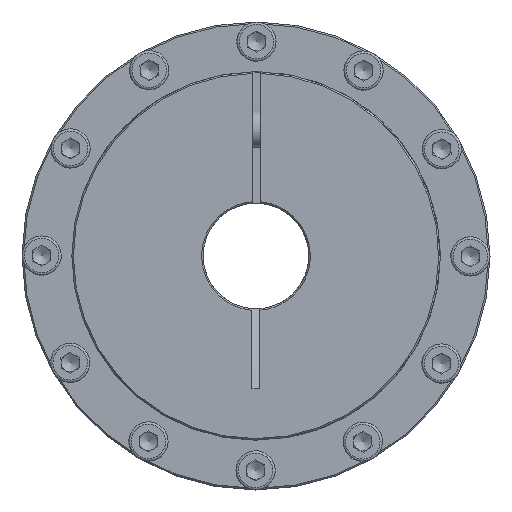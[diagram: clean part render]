
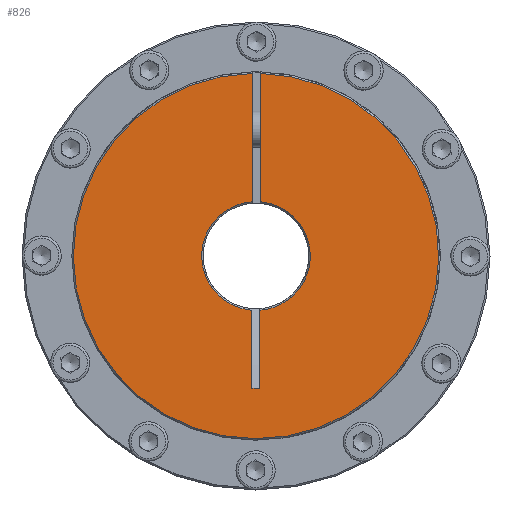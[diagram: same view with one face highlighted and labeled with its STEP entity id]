
A CAD part, left-side view. The second image highlights one B-rep face of the part: STEP entity #826.
In plain terms, the highlighted planar face has unit normal (-1, 0, 0).
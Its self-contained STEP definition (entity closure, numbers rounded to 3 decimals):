
#826 = ADVANCED_FACE( 'NONE', ( #1640 ), #1641, .F. );
#1640 = FACE_OUTER_BOUND( '', #2436, .T. );
#1641 = PLANE( '', #2437 );
#2436 = EDGE_LOOP( '', ( #3638, #3639, #3640, #3641, #3642, #3643, #3644, #3645 ) );
#2437 = AXIS2_PLACEMENT_3D( '', #3646, #3647, #3648 );
#3638 = ORIENTED_EDGE( '', *, *, #4302, .T. );
#3639 = ORIENTED_EDGE( '', *, *, #4371, .T. );
#3640 = ORIENTED_EDGE( '', *, *, #4132, .T. );
#3641 = ORIENTED_EDGE( '', *, *, #4331, .T. );
#3642 = ORIENTED_EDGE( '', *, *, #4442, .F. );
#3643 = ORIENTED_EDGE( '', *, *, #4443, .T. );
#3644 = ORIENTED_EDGE( '', *, *, #4444, .F. );
#3645 = ORIENTED_EDGE( '', *, *, #4100, .T. );
#3646 = CARTESIAN_POINT( '', ( 0., 17.5, 0. ) );
#3647 = DIRECTION( '', ( 1., 0., 0. ) );
#3648 = DIRECTION( '', ( 0., 1., 0. ) );
#4100 = EDGE_CURVE( 'NONE', #4663, #4667, #4669, .T. );
#4132 = EDGE_CURVE( 'NONE', #4721, #4722, #4723, .T. );
#4302 = EDGE_CURVE( 'NONE', #4667, #4994, #4996, .T. );
#4331 = EDGE_CURVE( 'NONE', #4722, #5041, #5042, .F. );
#4371 = EDGE_CURVE( 'NONE', #4994, #4721, #5096, .T. );
#4442 = EDGE_CURVE( 'NONE', #5179, #5041, #5180, .F. );
#4443 = EDGE_CURVE( 'NONE', #5179, #5181, #5182, .T. );
#4444 = EDGE_CURVE( 'NONE', #4663, #5181, #5183, .F. );
#4663 = VERTEX_POINT( 'NONE', #5534 );
#4667 = VERTEX_POINT( 'NONE', #5541 );
#4669 = LINE( '', #5543, #5544 );
#4721 = VERTEX_POINT( 'NONE', #5599 );
#4722 = VERTEX_POINT( 'NONE', #5600 );
#4723 = LINE( '', #5601, #5602 );
#4994 = VERTEX_POINT( 'NONE', #5941 );
#4996 = LINE( '', #5946, #5947 );
#5041 = VERTEX_POINT( 'NONE', #5999 );
#5042 = CIRCLE( '', #6000, 60.5 );
#5096 = CIRCLE( '', #6062, 18. );
#5179 = VERTEX_POINT( 'NONE', #6240 );
#5180 = LINE( '', #6241, #6242 );
#5181 = VERTEX_POINT( 'NONE', #6243 );
#5182 = CIRCLE( '', #6244, 18. );
#5183 = LINE( '', #6245, #6246 );
#5534 = CARTESIAN_POINT( '', ( 0., 43.826, -1.3 ) );
#5541 = CARTESIAN_POINT( '', ( 0., 43.826, 1.3 ) );
#5543 = CARTESIAN_POINT( '', ( 0., 43.826, -1.3 ) );
#5544 = VECTOR( '', #6491, 1000. );
#5599 = CARTESIAN_POINT( '', ( 0., -17.953, 1.3 ) );
#5600 = CARTESIAN_POINT( '', ( 0., -60.486, 1.3 ) );
#5601 = CARTESIAN_POINT( '', ( 0., 17.5, 1.3 ) );
#5602 = VECTOR( '', #6546, 1000. );
#5941 = CARTESIAN_POINT( '', ( 0., 17.953, 1.3 ) );
#5946 = CARTESIAN_POINT( '', ( 0., 17.5, 1.3 ) );
#5947 = VECTOR( '', #6820, 1000. );
#5999 = CARTESIAN_POINT( '', ( 0., -60.486, -1.3 ) );
#6000 = AXIS2_PLACEMENT_3D( '', #6874, #6875, #6876 );
#6062 = AXIS2_PLACEMENT_3D( '', #6927, #6928, #6929 );
#6240 = CARTESIAN_POINT( '', ( 0., -17.953, -1.3 ) );
#6241 = CARTESIAN_POINT( '', ( 0., -13., -1.3 ) );
#6242 = VECTOR( '', #6991, 1000. );
#6243 = CARTESIAN_POINT( '', ( 0., 17.953, -1.3 ) );
#6244 = AXIS2_PLACEMENT_3D( '', #6992, #6993, #6994 );
#6245 = CARTESIAN_POINT( '', ( 0., -13., -1.3 ) );
#6246 = VECTOR( '', #6995, 1000. );
#6491 = DIRECTION( '', ( 0., 0., 1. ) );
#6546 = DIRECTION( '', ( 0., -1., 0. ) );
#6820 = DIRECTION( '', ( 0., -1., 0. ) );
#6874 = CARTESIAN_POINT( '', ( 0., 0., 0. ) );
#6875 = DIRECTION( '', ( 1., 0., 0. ) );
#6876 = DIRECTION( '', ( 0., 0., -1. ) );
#6927 = CARTESIAN_POINT( '', ( 0., 0., 0. ) );
#6928 = DIRECTION( '', ( 1., 0., 0. ) );
#6929 = DIRECTION( '', ( 0., 0., -1. ) );
#6991 = DIRECTION( '', ( 0., 1., 0. ) );
#6992 = CARTESIAN_POINT( '', ( 0., 0., 0. ) );
#6993 = DIRECTION( '', ( 1., 0., 0. ) );
#6994 = DIRECTION( '', ( 0., 0., -1. ) );
#6995 = DIRECTION( '', ( 0., 1., 0. ) );
